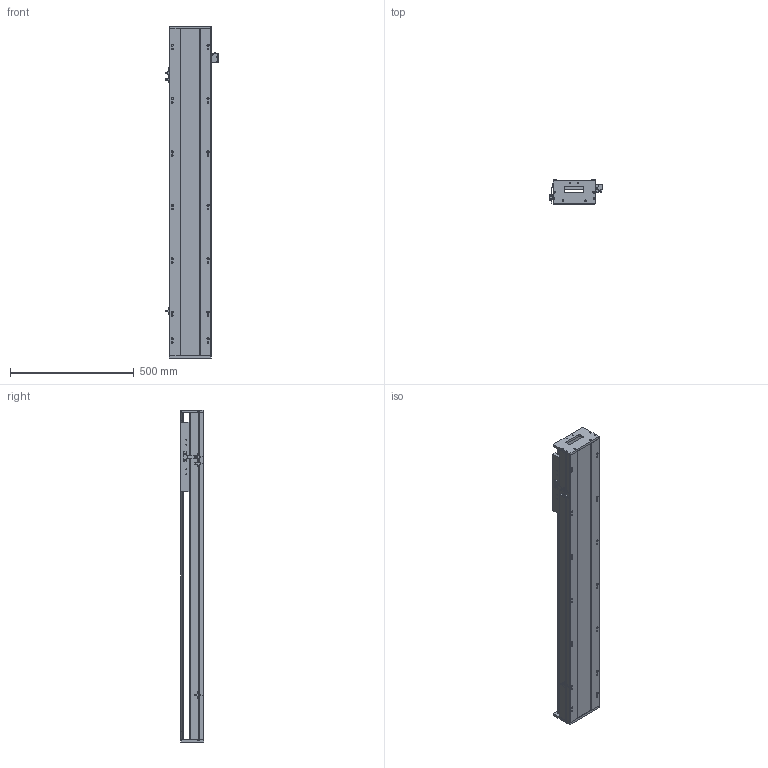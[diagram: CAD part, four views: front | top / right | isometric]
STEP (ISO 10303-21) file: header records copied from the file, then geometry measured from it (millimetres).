
FILE_DESCRIPTION (( 'STEP AP203' ), '1' );
FILE_NAME ('SKR17S-C2-S964（简）.STEP', '2022-09-29T07:54:36', ( '' ), ( '' ), 'SwSTEP 2.0', 'SolidWorks 2018', '' );
FILE_SCHEMA (( 'CONFIG_CONTROL_DESIGN' ));
Length unit declared in the file: millimetre
Products named in the file (8): SKR17耜啣; SKR17滑台-280L（简）; SKR17底座-C2-S964（简); 棠掑假蚾輸; SIKO棠掑; SKR17S-C2-S964（简）; 感应片（SKR12S-14S-17S）; EE-SX672
Assembly tree (10 placements, depth 2):
  SKR17S-C2-S964（简）
    SKR17底座-C2-S964（简)
    SIKO棠掑
    EE-SX672  x3
    SKR17耜啣  x2
    棠掑假蚾輸
    SKR17滑台-280L（简）
    感应片（SKR12S-14S-17S）
Bounding box: 212.7 x 97 x 1344 mm (x, y, z)
Volume: 10927940.1 mm3; surface area: 1380366.3 mm2
Topology: 11 solids, 11 shells, 1144 faces, 3172 edges, 2036 vertices
Faces by surface type: cylinder 541, plane 481, cone 122
Entity records: 34339 total; most frequent: CARTESIAN_POINT 8655, ORIENTED_EDGE 5348, DIRECTION 5013, EDGE_CURVE 2674, AXIS2_PLACEMENT_3D 1778, VERTEX_POINT 1740, LINE 1457, VECTOR 1457
